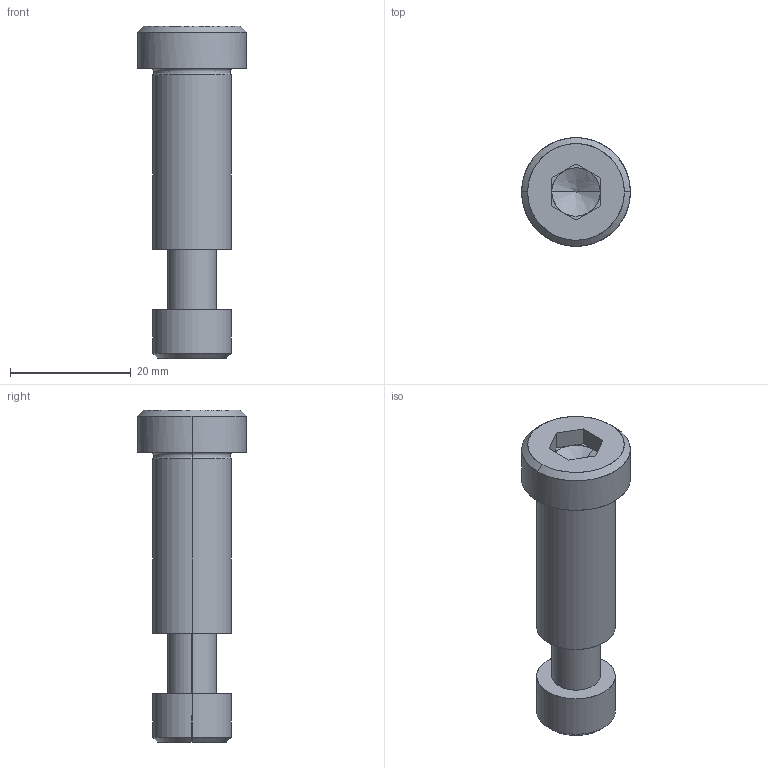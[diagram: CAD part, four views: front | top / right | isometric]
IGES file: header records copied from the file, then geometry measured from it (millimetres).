
Global section: file name: E:\UnigraphicsGraphicData\MISUMI_PRESS-PARTS\IGES\3d_sbtc13-30_05093_r00.igs; native system: NX V5.0; preprocessor: UGS NX IGES V5.0; author: MISUMI; date: 20110105.162444; units: millimetre
Bounding box: 18 x 18 x 55 mm (x, y, z)
Surface area: 3884.4 mm2 (no closed solid volume)
Topology: 0 solids, 0 shells, 52 faces, 286 edges, 282 vertices
Faces by surface type: bspline 52
